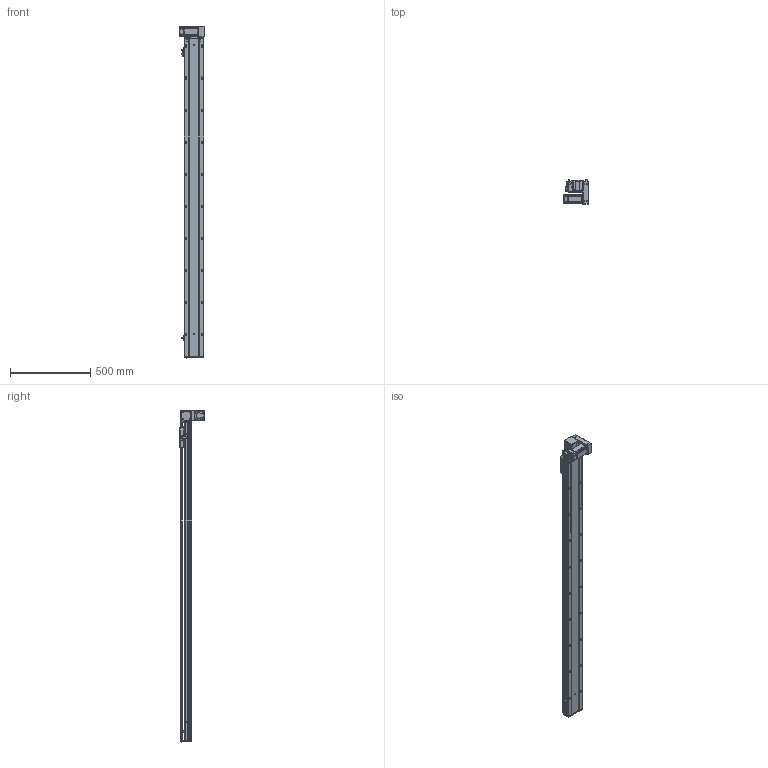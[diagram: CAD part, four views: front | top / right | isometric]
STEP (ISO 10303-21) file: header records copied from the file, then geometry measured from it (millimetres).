
FILE_DESCRIPTION (( 'STEP AP203' ), '1' );
FILE_NAME ('RY120-T-300-DR.SLDASM_1750.step', '2021-03-01T03:37:01', ( '盈信电脑' ), ( '东莞市道滘镇水果街19号' ), 'SwSTEP 2.0', 'SolidWorks 2012', '' );
FILE_SCHEMA (( 'CONFIG_CONTROL_DESIGN' ));
Length unit declared in the file: millimetre
Products named in the file (17): RY120-T主同步轮轴承压盖; RY120-T-300-DR.SLDASM_1750; 15; RY120-T萇儂假蚾啣; RY120-T蹟翐M4; RY120-T萇儂欶; 滅袉蝶18-10; RY120-T翋肮祭盓傅釱; RY120-T肮祭湍揤踡輸2; RY120-T翋肮祭謫裔啣; RY120-T肮祭湍揤踡輸1; RY120外置感应片(140共用）; 覜茼ん672; RY120-T-300-DR倰第奻裔啣_1750; RY120綴裔啣; RY120-T-300-DR倰第菁釱_1750; RY120肮祭湍臏賑輸
Assembly tree (22 placements, depth 2):
  RY120-T-300-DR.SLDASM_1750
    RY120-T-300-DR倰第菁釱_1750
    RY120-T-300-DR倰第奻裔啣_1750
    RY120肮祭湍臏賑輸
    RY120綴裔啣
    覜茼ん672  x3
    RY120外置感应片(140共用）
    RY120-T肮祭湍揤踡輸1
    RY120-T肮祭湍揤踡輸2
    RY120-T翋肮祭盓傅釱
    滅袉蝶18-10  x2
    RY120-T翋肮祭謫裔啣
    15
    RY120-T萇儂假蚾啣
    RY120-T蹟翐M4  x4
    RY120-T萇儂欶
    RY120-T主同步轮轴承压盖
Bounding box: 155.5 x 150 x 2071 mm (x, y, z)
Volume: 5259163.7 mm3; surface area: 2001393.9 mm2
Topology: 23 solids, 23 shells, 3042 faces, 8316 edges, 5304 vertices
Faces by surface type: plane 1442, cylinder 1204, cone 307, bspline 89
Entity records: 97575 total; most frequent: CARTESIAN_POINT 25338, ORIENTED_EDGE 14952, DIRECTION 14118, EDGE_CURVE 7476, VERTEX_POINT 4891, AXIS2_PLACEMENT_3D 4783, VECTOR 4552, LINE 4552
